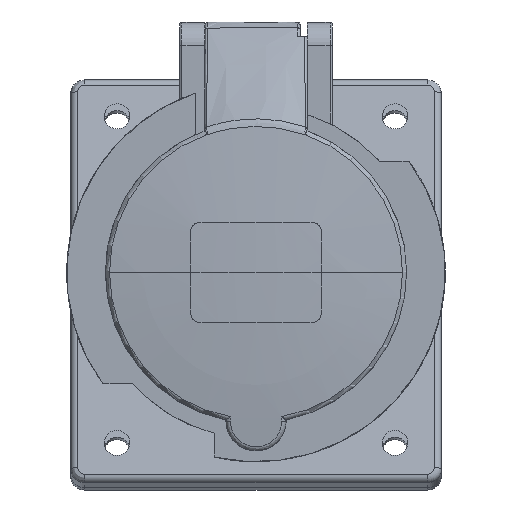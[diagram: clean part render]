
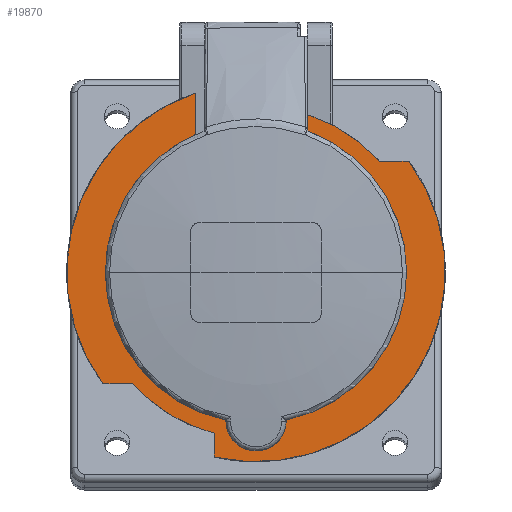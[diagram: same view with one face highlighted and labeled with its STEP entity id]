
A CAD part, top view. The second image highlights one B-rep face of the part: STEP entity #19870.
In plain terms, the highlighted planar face has unit normal (0, 0, 1).
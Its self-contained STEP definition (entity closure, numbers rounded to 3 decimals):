
#18562 = VERTEX_POINT('',#18563);
#18563 = CARTESIAN_POINT('',(11.2,34.056,48.5));
#18569 = EDGE_CURVE('',#18570,#18562,#18572,.T.);
#18570 = VERTEX_POINT('',#18571);
#18571 = CARTESIAN_POINT('',(26.631,24.,48.5));
#18572 = CIRCLE('',#18573,35.85);
#18573 = AXIS2_PLACEMENT_3D('',#18574,#18575,#18576);
#18574 = CARTESIAN_POINT('',(0.,0.,48.5));
#18575 = DIRECTION('',(0.,0.,1.));
#18576 = DIRECTION('',(0.743,0.669,-0.));
#18974 = EDGE_CURVE('',#18975,#18977,#18979,.T.);
#18975 = VERTEX_POINT('',#18976);
#18976 = CARTESIAN_POINT('',(-13.,29.787,48.5));
#18977 = VERTEX_POINT('',#18978);
#18978 = CARTESIAN_POINT('',(-13.,38.726,48.5));
#18979 = LINE('',#18980,#18981);
#18980 = CARTESIAN_POINT('',(-13.,29.787,48.5));
#18981 = VECTOR('',#18982,1.);
#18982 = DIRECTION('',(0.,1.,0.));
#19851 = VERTEX_POINT('',#19852);
#19852 = CARTESIAN_POINT('',(11.2,31.7,48.5));
#19858 = EDGE_CURVE('',#18562,#19851,#19859,.T.);
#19859 = LINE('',#19860,#19861);
#19860 = CARTESIAN_POINT('',(11.2,34.056,48.5));
#19861 = VECTOR('',#19862,1.);
#19862 = DIRECTION('',(0.,-1.,0.));
#19870 = ADVANCED_FACE('',(#19871),#19958,.F.);
#19871 = FACE_BOUND('',#19872,.T.);
#19872 = EDGE_LOOP('',(#19873,#19881,#19882,#19883,#19891,#19900,#19909,
    #19916,#19917,#19926,#19934,#19943,#19951));
#19873 = ORIENTED_EDGE('',*,*,#19874,.T.);
#19874 = EDGE_CURVE('',#19875,#18570,#19877,.T.);
#19875 = VERTEX_POINT('',#19876);
#19876 = CARTESIAN_POINT('',(33.056,24.,48.5));
#19877 = LINE('',#19878,#19879);
#19878 = CARTESIAN_POINT('',(33.056,24.,48.5));
#19879 = VECTOR('',#19880,1.);
#19880 = DIRECTION('',(-1.,0.,0.));
#19881 = ORIENTED_EDGE('',*,*,#18569,.T.);
#19882 = ORIENTED_EDGE('',*,*,#19858,.T.);
#19883 = ORIENTED_EDGE('',*,*,#19884,.T.);
#19884 = EDGE_CURVE('',#19851,#19885,#19887,.T.);
#19885 = VERTEX_POINT('',#19886);
#19886 = CARTESIAN_POINT('',(11.2,30.509,48.5));
#19887 = LINE('',#19888,#19889);
#19888 = CARTESIAN_POINT('',(11.2,31.7,48.5));
#19889 = VECTOR('',#19890,1.);
#19890 = DIRECTION('',(0.,-1.,0.));
#19891 = ORIENTED_EDGE('',*,*,#19892,.F.);
#19892 = EDGE_CURVE('',#19893,#19885,#19895,.T.);
#19893 = VERTEX_POINT('',#19894);
#19894 = CARTESIAN_POINT('',(6.498,-31.844,48.5));
#19895 = CIRCLE('',#19896,32.5);
#19896 = AXIS2_PLACEMENT_3D('',#19897,#19898,#19899);
#19897 = CARTESIAN_POINT('',(0.,0.,48.5));
#19898 = DIRECTION('',(0.,0.,1.));
#19899 = DIRECTION('',(0.2,-0.98,0.));
#19900 = ORIENTED_EDGE('',*,*,#19901,.F.);
#19901 = EDGE_CURVE('',#19902,#19893,#19904,.T.);
#19902 = VERTEX_POINT('',#19903);
#19903 = CARTESIAN_POINT('',(-6.498,-31.844,48.5));
#19904 = CIRCLE('',#19905,6.5);
#19905 = AXIS2_PLACEMENT_3D('',#19906,#19907,#19908);
#19906 = CARTESIAN_POINT('',(0.,-32.,48.5));
#19907 = DIRECTION('',(0.,0.,1.));
#19908 = DIRECTION('',(-1.,0.024,0.));
#19909 = ORIENTED_EDGE('',*,*,#19910,.F.);
#19910 = EDGE_CURVE('',#18975,#19902,#19911,.T.);
#19911 = CIRCLE('',#19912,32.5);
#19912 = AXIS2_PLACEMENT_3D('',#19913,#19914,#19915);
#19913 = CARTESIAN_POINT('',(0.,0.,48.5));
#19914 = DIRECTION('',(0.,0.,1.));
#19915 = DIRECTION('',(-0.4,0.917,0.));
#19916 = ORIENTED_EDGE('',*,*,#18974,.T.);
#19917 = ORIENTED_EDGE('',*,*,#19918,.T.);
#19918 = EDGE_CURVE('',#18977,#19919,#19921,.T.);
#19919 = VERTEX_POINT('',#19920);
#19920 = CARTESIAN_POINT('',(-33.056,-24.,48.5));
#19921 = CIRCLE('',#19922,40.85);
#19922 = AXIS2_PLACEMENT_3D('',#19923,#19924,#19925);
#19923 = CARTESIAN_POINT('',(0.,0.,48.5));
#19924 = DIRECTION('',(0.,0.,1.));
#19925 = DIRECTION('',(-0.318,0.948,0.));
#19926 = ORIENTED_EDGE('',*,*,#19927,.T.);
#19927 = EDGE_CURVE('',#19919,#19928,#19930,.T.);
#19928 = VERTEX_POINT('',#19929);
#19929 = CARTESIAN_POINT('',(-26.631,-24.,48.5));
#19930 = LINE('',#19931,#19932);
#19931 = CARTESIAN_POINT('',(-33.056,-24.,48.5));
#19932 = VECTOR('',#19933,1.);
#19933 = DIRECTION('',(1.,0.,0.));
#19934 = ORIENTED_EDGE('',*,*,#19935,.T.);
#19935 = EDGE_CURVE('',#19928,#19936,#19938,.T.);
#19936 = VERTEX_POINT('',#19937);
#19937 = CARTESIAN_POINT('',(-9.,-34.702,48.5));
#19938 = CIRCLE('',#19939,35.85);
#19939 = AXIS2_PLACEMENT_3D('',#19940,#19941,#19942);
#19940 = CARTESIAN_POINT('',(0.,0.,48.5));
#19941 = DIRECTION('',(0.,0.,1.));
#19942 = DIRECTION('',(-0.743,-0.669,0.));
#19943 = ORIENTED_EDGE('',*,*,#19944,.F.);
#19944 = EDGE_CURVE('',#19945,#19936,#19947,.T.);
#19945 = VERTEX_POINT('',#19946);
#19946 = CARTESIAN_POINT('',(-9.,-39.846,48.5));
#19947 = LINE('',#19948,#19949);
#19948 = CARTESIAN_POINT('',(-9.,-39.846,48.5));
#19949 = VECTOR('',#19950,1.);
#19950 = DIRECTION('',(0.,1.,0.));
#19951 = ORIENTED_EDGE('',*,*,#19952,.T.);
#19952 = EDGE_CURVE('',#19945,#19875,#19953,.T.);
#19953 = CIRCLE('',#19954,40.85);
#19954 = AXIS2_PLACEMENT_3D('',#19955,#19956,#19957);
#19955 = CARTESIAN_POINT('',(0.,0.,48.5));
#19956 = DIRECTION('',(0.,0.,1.));
#19957 = DIRECTION('',(-0.22,-0.975,0.));
#19958 = PLANE('',#19959);
#19959 = AXIS2_PLACEMENT_3D('',#19960,#19961,#19962);
#19960 = CARTESIAN_POINT('',(0.,0.,48.5));
#19961 = DIRECTION('',(0.,0.,-1.));
#19962 = DIRECTION('',(1.,0.,0.));
